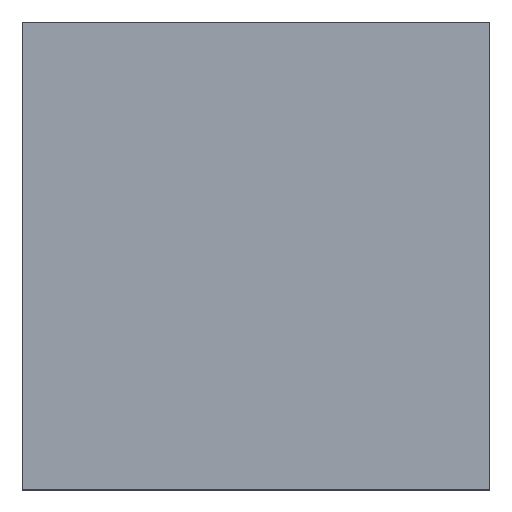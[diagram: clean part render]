
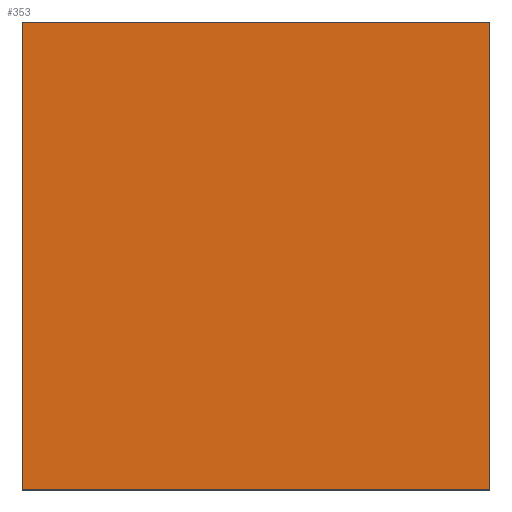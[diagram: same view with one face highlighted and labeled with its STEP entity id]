
A CAD part, top view. The second image highlights one B-rep face of the part: STEP entity #353.
In plain terms, the highlighted planar face has unit normal (0, 0, 1).
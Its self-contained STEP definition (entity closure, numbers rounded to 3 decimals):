
#39 = VERTEX_POINT('',#40);
#40 = CARTESIAN_POINT('',(-10.48,2.86,8.2));
#47 = PLANE('',#48);
#48 = AXIS2_PLACEMENT_3D('',#49,#50,#51);
#49 = CARTESIAN_POINT('',(-10.48,2.86,0.));
#50 = DIRECTION('',(0.,1.,0.));
#51 = DIRECTION('',(1.,0.,0.));
#59 = PLANE('',#60);
#60 = AXIS2_PLACEMENT_3D('',#61,#62,#63);
#61 = CARTESIAN_POINT('',(-10.48,-20.64,0.));
#62 = DIRECTION('',(-1.,0.,0.));
#63 = DIRECTION('',(0.,1.,0.));
#71 = EDGE_CURVE('',#39,#72,#74,.T.);
#72 = VERTEX_POINT('',#73);
#73 = CARTESIAN_POINT('',(13.02,2.86,8.2));
#74 = SURFACE_CURVE('',#75,(#79,#86),.PCURVE_S1.);
#75 = LINE('',#76,#77);
#76 = CARTESIAN_POINT('',(-10.48,2.86,8.2));
#77 = VECTOR('',#78,1.);
#78 = DIRECTION('',(1.,0.,0.));
#79 = PCURVE('',#47,#80);
#80 = DEFINITIONAL_REPRESENTATION('',(#81),#85);
#81 = LINE('',#82,#83);
#82 = CARTESIAN_POINT('',(0.,-8.2));
#83 = VECTOR('',#84,1.);
#84 = DIRECTION('',(1.,0.));
#85 = ( GEOMETRIC_REPRESENTATION_CONTEXT(2) 
PARAMETRIC_REPRESENTATION_CONTEXT() REPRESENTATION_CONTEXT('2D SPACE',''
  ) );
#86 = PCURVE('',#87,#92);
#87 = PLANE('',#88);
#88 = AXIS2_PLACEMENT_3D('',#89,#90,#91);
#89 = CARTESIAN_POINT('',(1.27,-8.89,8.2));
#90 = DIRECTION('',(-0.,-0.,-1.));
#91 = DIRECTION('',(-1.,0.,0.));
#92 = DEFINITIONAL_REPRESENTATION('',(#93),#97);
#93 = LINE('',#94,#95);
#94 = CARTESIAN_POINT('',(11.75,11.75));
#95 = VECTOR('',#96,1.);
#96 = DIRECTION('',(-1.,0.));
#97 = ( GEOMETRIC_REPRESENTATION_CONTEXT(2) 
PARAMETRIC_REPRESENTATION_CONTEXT() REPRESENTATION_CONTEXT('2D SPACE',''
  ) );
#115 = PLANE('',#116);
#116 = AXIS2_PLACEMENT_3D('',#117,#118,#119);
#117 = CARTESIAN_POINT('',(13.02,2.86,0.));
#118 = DIRECTION('',(1.,0.,-0.));
#119 = DIRECTION('',(0.,-1.,0.));
#157 = EDGE_CURVE('',#72,#158,#160,.T.);
#158 = VERTEX_POINT('',#159);
#159 = CARTESIAN_POINT('',(13.02,-20.64,8.2));
#160 = SURFACE_CURVE('',#161,(#165,#172),.PCURVE_S1.);
#161 = LINE('',#162,#163);
#162 = CARTESIAN_POINT('',(13.02,2.86,8.2));
#163 = VECTOR('',#164,1.);
#164 = DIRECTION('',(0.,-1.,0.));
#165 = PCURVE('',#115,#166);
#166 = DEFINITIONAL_REPRESENTATION('',(#167),#171);
#167 = LINE('',#168,#169);
#168 = CARTESIAN_POINT('',(0.,-8.2));
#169 = VECTOR('',#170,1.);
#170 = DIRECTION('',(1.,0.));
#171 = ( GEOMETRIC_REPRESENTATION_CONTEXT(2) 
PARAMETRIC_REPRESENTATION_CONTEXT() REPRESENTATION_CONTEXT('2D SPACE',''
  ) );
#172 = PCURVE('',#87,#173);
#173 = DEFINITIONAL_REPRESENTATION('',(#174),#178);
#174 = LINE('',#175,#176);
#175 = CARTESIAN_POINT('',(-11.75,11.75));
#176 = VECTOR('',#177,1.);
#177 = DIRECTION('',(0.,-1.));
#178 = ( GEOMETRIC_REPRESENTATION_CONTEXT(2) 
PARAMETRIC_REPRESENTATION_CONTEXT() REPRESENTATION_CONTEXT('2D SPACE',''
  ) );
#196 = PLANE('',#197);
#197 = AXIS2_PLACEMENT_3D('',#198,#199,#200);
#198 = CARTESIAN_POINT('',(13.02,-20.64,0.));
#199 = DIRECTION('',(0.,-1.,0.));
#200 = DIRECTION('',(-1.,0.,0.));
#233 = EDGE_CURVE('',#158,#234,#236,.T.);
#234 = VERTEX_POINT('',#235);
#235 = CARTESIAN_POINT('',(-10.48,-20.64,8.2));
#236 = SURFACE_CURVE('',#237,(#241,#248),.PCURVE_S1.);
#237 = LINE('',#238,#239);
#238 = CARTESIAN_POINT('',(13.02,-20.64,8.2));
#239 = VECTOR('',#240,1.);
#240 = DIRECTION('',(-1.,0.,0.));
#241 = PCURVE('',#196,#242);
#242 = DEFINITIONAL_REPRESENTATION('',(#243),#247);
#243 = LINE('',#244,#245);
#244 = CARTESIAN_POINT('',(0.,-8.2));
#245 = VECTOR('',#246,1.);
#246 = DIRECTION('',(1.,0.));
#247 = ( GEOMETRIC_REPRESENTATION_CONTEXT(2) 
PARAMETRIC_REPRESENTATION_CONTEXT() REPRESENTATION_CONTEXT('2D SPACE',''
  ) );
#248 = PCURVE('',#87,#249);
#249 = DEFINITIONAL_REPRESENTATION('',(#250),#254);
#250 = LINE('',#251,#252);
#251 = CARTESIAN_POINT('',(-11.75,-11.75));
#252 = VECTOR('',#253,1.);
#253 = DIRECTION('',(1.,0.));
#254 = ( GEOMETRIC_REPRESENTATION_CONTEXT(2) 
PARAMETRIC_REPRESENTATION_CONTEXT() REPRESENTATION_CONTEXT('2D SPACE',''
  ) );
#304 = EDGE_CURVE('',#234,#39,#305,.T.);
#305 = SURFACE_CURVE('',#306,(#310,#317),.PCURVE_S1.);
#306 = LINE('',#307,#308);
#307 = CARTESIAN_POINT('',(-10.48,-20.64,8.2));
#308 = VECTOR('',#309,1.);
#309 = DIRECTION('',(0.,1.,0.));
#310 = PCURVE('',#59,#311);
#311 = DEFINITIONAL_REPRESENTATION('',(#312),#316);
#312 = LINE('',#313,#314);
#313 = CARTESIAN_POINT('',(0.,-8.2));
#314 = VECTOR('',#315,1.);
#315 = DIRECTION('',(1.,0.));
#316 = ( GEOMETRIC_REPRESENTATION_CONTEXT(2) 
PARAMETRIC_REPRESENTATION_CONTEXT() REPRESENTATION_CONTEXT('2D SPACE',''
  ) );
#317 = PCURVE('',#87,#318);
#318 = DEFINITIONAL_REPRESENTATION('',(#319),#323);
#319 = LINE('',#320,#321);
#320 = CARTESIAN_POINT('',(11.75,-11.75));
#321 = VECTOR('',#322,1.);
#322 = DIRECTION('',(0.,1.));
#323 = ( GEOMETRIC_REPRESENTATION_CONTEXT(2) 
PARAMETRIC_REPRESENTATION_CONTEXT() REPRESENTATION_CONTEXT('2D SPACE',''
  ) );
#353 = ADVANCED_FACE('',(#354),#87,.F.);
#354 = FACE_BOUND('',#355,.F.);
#355 = EDGE_LOOP('',(#356,#357,#358,#359));
#356 = ORIENTED_EDGE('',*,*,#71,.T.);
#357 = ORIENTED_EDGE('',*,*,#157,.T.);
#358 = ORIENTED_EDGE('',*,*,#233,.T.);
#359 = ORIENTED_EDGE('',*,*,#304,.T.);
